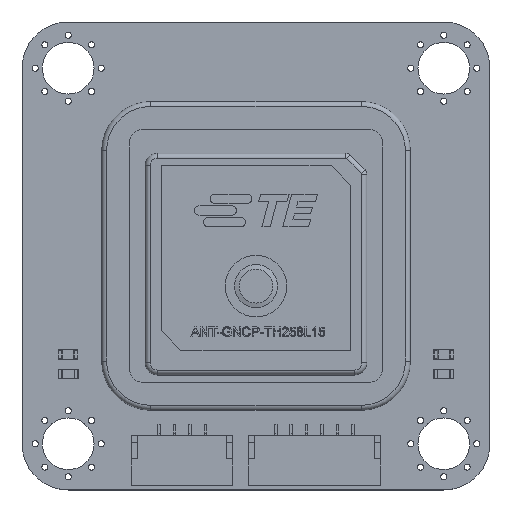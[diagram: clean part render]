
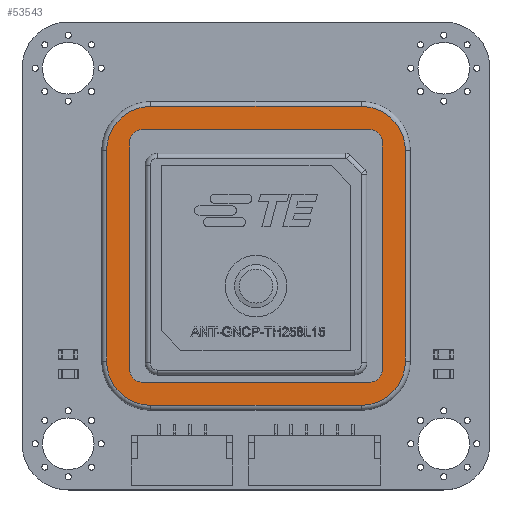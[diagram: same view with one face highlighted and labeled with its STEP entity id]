
A CAD part, top view. The second image highlights one B-rep face of the part: STEP entity #53543.
In plain terms, the highlighted planar face has unit normal (0, 0, 1) as drawn and (0, 1, 0) by its records, which use the part's own axes.
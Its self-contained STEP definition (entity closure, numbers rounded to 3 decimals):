
#2716=FACE_BOUND('',#8311,.T.);
#4624=CIRCLE('',#56762,3.6);
#4625=CIRCLE('',#56763,3.6);
#4626=CIRCLE('',#56764,3.6);
#4627=CIRCLE('',#56765,3.6);
#4628=CIRCLE('',#56766,1.);
#4629=CIRCLE('',#56767,1.);
#4630=CIRCLE('',#56768,1.);
#4631=CIRCLE('',#56769,1.);
#5364=FACE_OUTER_BOUND('',#8310,.T.);
#8310=EDGE_LOOP('',(#35981,#35982,#35983,#35984,#35985,#35986,#35987,#35988));
#8311=EDGE_LOOP('',(#35989,#35990,#35991,#35992,#35993,#35994,#35995,#35996));
#11457=LINE('',#70462,#17138);
#11458=LINE('',#70466,#17139);
#11459=LINE('',#70470,#17140);
#11460=LINE('',#70473,#17141);
#11461=LINE('',#70476,#17142);
#11462=LINE('',#70480,#17143);
#11463=LINE('',#70484,#17144);
#11464=LINE('',#70488,#17145);
#17138=VECTOR('',#59465,1.);
#17139=VECTOR('',#59468,1.);
#17140=VECTOR('',#59471,1.);
#17141=VECTOR('',#59474,1.);
#17142=VECTOR('',#59475,1.);
#17143=VECTOR('',#59478,1.);
#17144=VECTOR('',#59481,1.);
#17145=VECTOR('',#59484,1.);
#22820=VERTEX_POINT('',#70458);
#22821=VERTEX_POINT('',#70459);
#22822=VERTEX_POINT('',#70461);
#22823=VERTEX_POINT('',#70463);
#22824=VERTEX_POINT('',#70465);
#22825=VERTEX_POINT('',#70467);
#22826=VERTEX_POINT('',#70469);
#22827=VERTEX_POINT('',#70471);
#22828=VERTEX_POINT('',#70474);
#22829=VERTEX_POINT('',#70475);
#22830=VERTEX_POINT('',#70477);
#22831=VERTEX_POINT('',#70479);
#22832=VERTEX_POINT('',#70481);
#22833=VERTEX_POINT('',#70483);
#22834=VERTEX_POINT('',#70485);
#22835=VERTEX_POINT('',#70487);
#28063=EDGE_CURVE('',#22820,#22821,#4624,.T.);
#28064=EDGE_CURVE('',#22821,#22822,#11457,.T.);
#28065=EDGE_CURVE('',#22822,#22823,#4625,.T.);
#28066=EDGE_CURVE('',#22823,#22824,#11458,.T.);
#28067=EDGE_CURVE('',#22824,#22825,#4626,.T.);
#28068=EDGE_CURVE('',#22825,#22826,#11459,.T.);
#28069=EDGE_CURVE('',#22826,#22827,#4627,.T.);
#28070=EDGE_CURVE('',#22827,#22820,#11460,.T.);
#28071=EDGE_CURVE('',#22828,#22829,#11461,.T.);
#28072=EDGE_CURVE('',#22830,#22829,#4628,.T.);
#28073=EDGE_CURVE('',#22830,#22831,#11462,.T.);
#28074=EDGE_CURVE('',#22832,#22831,#4629,.T.);
#28075=EDGE_CURVE('',#22833,#22832,#11463,.T.);
#28076=EDGE_CURVE('',#22833,#22834,#4630,.T.);
#28077=EDGE_CURVE('',#22835,#22834,#11464,.T.);
#28078=EDGE_CURVE('',#22828,#22835,#4631,.T.);
#35981=ORIENTED_EDGE('',*,*,#28063,.T.);
#35982=ORIENTED_EDGE('',*,*,#28064,.T.);
#35983=ORIENTED_EDGE('',*,*,#28065,.T.);
#35984=ORIENTED_EDGE('',*,*,#28066,.T.);
#35985=ORIENTED_EDGE('',*,*,#28067,.T.);
#35986=ORIENTED_EDGE('',*,*,#28068,.T.);
#35987=ORIENTED_EDGE('',*,*,#28069,.T.);
#35988=ORIENTED_EDGE('',*,*,#28070,.T.);
#35989=ORIENTED_EDGE('',*,*,#28071,.T.);
#35990=ORIENTED_EDGE('',*,*,#28072,.F.);
#35991=ORIENTED_EDGE('',*,*,#28073,.T.);
#35992=ORIENTED_EDGE('',*,*,#28074,.F.);
#35993=ORIENTED_EDGE('',*,*,#28075,.F.);
#35994=ORIENTED_EDGE('',*,*,#28076,.T.);
#35995=ORIENTED_EDGE('',*,*,#28077,.F.);
#35996=ORIENTED_EDGE('',*,*,#28078,.F.);
#51721=PLANE('',#56761);
#53543=ADVANCED_FACE('',(#5364,#2716),#51721,.F.);
#56761=AXIS2_PLACEMENT_3D('',#70457,#59461,#59462);
#56762=AXIS2_PLACEMENT_3D('',#70460,#59463,#59464);
#56763=AXIS2_PLACEMENT_3D('',#70464,#59466,#59467);
#56764=AXIS2_PLACEMENT_3D('',#70468,#59469,#59470);
#56765=AXIS2_PLACEMENT_3D('',#70472,#59472,#59473);
#56766=AXIS2_PLACEMENT_3D('',#70478,#59476,#59477);
#56767=AXIS2_PLACEMENT_3D('',#70482,#59479,#59480);
#56768=AXIS2_PLACEMENT_3D('',#70486,#59482,#59483);
#56769=AXIS2_PLACEMENT_3D('',#70489,#59485,#59486);
#59461=DIRECTION('center_axis',(0.,-1.,0.));
#59462=DIRECTION('ref_axis',(0.,0.,-1.));
#59463=DIRECTION('center_axis',(0.,1.,0.));
#59464=DIRECTION('ref_axis',(0.,0.,-1.));
#59465=DIRECTION('',(1.,0.,0.));
#59466=DIRECTION('center_axis',(0.,1.,0.));
#59467=DIRECTION('ref_axis',(0.,0.,-1.));
#59468=DIRECTION('',(0.,0.,-1.));
#59469=DIRECTION('center_axis',(0.,1.,0.));
#59470=DIRECTION('ref_axis',(0.,0.,-1.));
#59471=DIRECTION('',(-1.,0.,0.));
#59472=DIRECTION('center_axis',(0.,1.,0.));
#59473=DIRECTION('ref_axis',(0.,0.,-1.));
#59474=DIRECTION('',(0.,0.,1.));
#59475=DIRECTION('',(0.,0.,-1.));
#59476=DIRECTION('center_axis',(0.,1.,0.));
#59477=DIRECTION('ref_axis',(0.,0.,1.));
#59478=DIRECTION('',(1.,0.,0.));
#59479=DIRECTION('center_axis',(0.,1.,0.));
#59480=DIRECTION('ref_axis',(0.,0.,1.));
#59481=DIRECTION('',(0.,0.,-1.));
#59482=DIRECTION('center_axis',(0.,-1.,0.));
#59483=DIRECTION('ref_axis',(0.,0.,1.));
#59484=DIRECTION('',(1.,0.,0.));
#59485=DIRECTION('center_axis',(0.,1.,0.));
#59486=DIRECTION('ref_axis',(0.,0.,1.));
#70457=CARTESIAN_POINT('Origin',(-8.535,4.,8.535));
#70458=CARTESIAN_POINT('',(-12.135,4.,8.535));
#70459=CARTESIAN_POINT('',(-8.535,4.,12.135));
#70460=CARTESIAN_POINT('Origin',(-8.535,4.,8.535));
#70461=CARTESIAN_POINT('',(8.535,4.,12.135));
#70462=CARTESIAN_POINT('',(-8.535,4.,12.135));
#70463=CARTESIAN_POINT('',(12.135,4.,8.535));
#70464=CARTESIAN_POINT('Origin',(8.535,4.,8.535));
#70465=CARTESIAN_POINT('',(12.135,4.,-8.535));
#70466=CARTESIAN_POINT('',(12.135,4.,8.535));
#70467=CARTESIAN_POINT('',(8.535,4.,-12.135));
#70468=CARTESIAN_POINT('Origin',(8.535,4.,-8.535));
#70469=CARTESIAN_POINT('',(-8.535,4.,-12.135));
#70470=CARTESIAN_POINT('',(-8.535,4.,-12.135));
#70471=CARTESIAN_POINT('',(-12.135,4.,-8.535));
#70472=CARTESIAN_POINT('Origin',(-8.535,4.,-8.535));
#70473=CARTESIAN_POINT('',(-12.135,4.,8.535));
#70474=CARTESIAN_POINT('',(-10.25,4.,9.25));
#70475=CARTESIAN_POINT('',(-10.25,4.,-9.25));
#70476=CARTESIAN_POINT('',(-10.25,4.,0.));
#70477=CARTESIAN_POINT('',(-9.25,4.,-10.25));
#70478=CARTESIAN_POINT('Origin',(-9.25,4.,-9.25));
#70479=CARTESIAN_POINT('',(9.25,4.,-10.25));
#70480=CARTESIAN_POINT('',(0.,4.,-10.25));
#70481=CARTESIAN_POINT('',(10.25,4.,-9.25));
#70482=CARTESIAN_POINT('Origin',(9.25,4.,-9.25));
#70483=CARTESIAN_POINT('',(10.25,4.,9.25));
#70484=CARTESIAN_POINT('',(10.25,4.,0.));
#70485=CARTESIAN_POINT('',(9.25,4.,10.25));
#70486=CARTESIAN_POINT('Origin',(9.25,4.,9.25));
#70487=CARTESIAN_POINT('',(-9.25,4.,10.25));
#70488=CARTESIAN_POINT('',(0.,4.,10.25));
#70489=CARTESIAN_POINT('Origin',(-9.25,4.,9.25));
